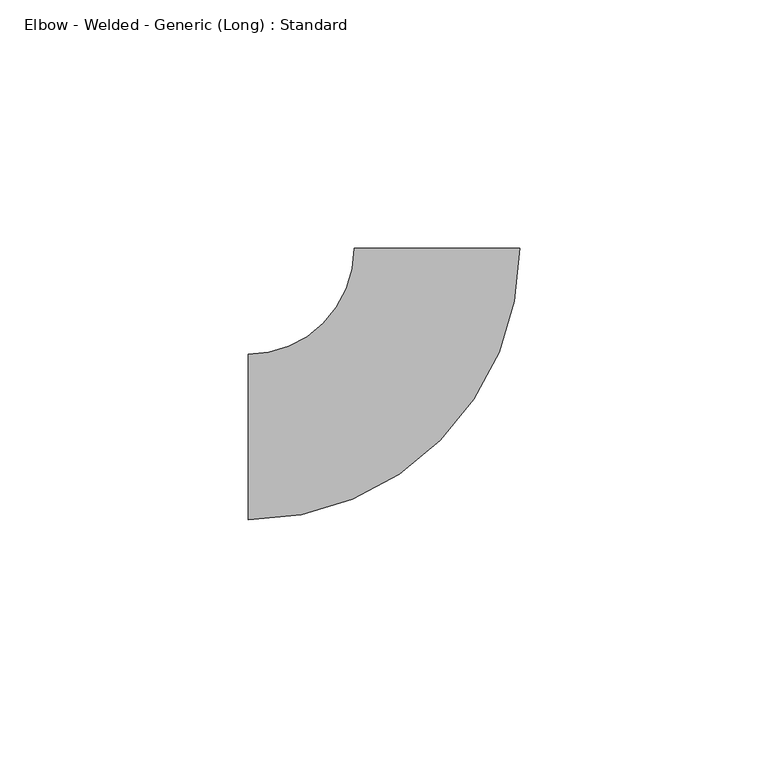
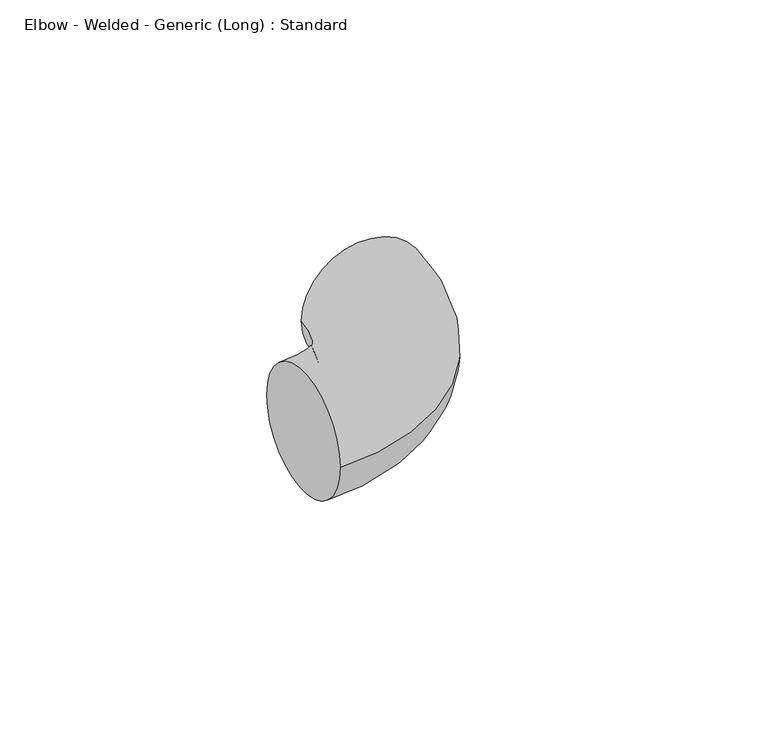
"""IFC4 building model written with IfcOpenShell, lengths in millimetres: pipe fitting geometry, Elbow - Welded - Generic (Long) : Standard."""

import ifcopenshell
import ifcopenshell.guid

model = None  # the IFC model being written
_history = None  # IfcOwnerHistory: only IFC2X3 demands one
_inside = {}  # id of a spatial element -> (the spatial element, [elements in it])
_under = {}  # id of a project, library or spatial element -> (it, [spatial elements below it])
_declared = {}  # id of a project -> (the project, [libraries it declares])
_typed = {}  # id of a type object -> (the type object, [elements of that type])
_made_of = {}  # id of a material, layer set ... -> (it, [elements and type objects made of it])


def new_model(schema):
    """Start an empty IFC model of exactly this schema.

    Asked for "IFC4X3", IfcOpenShell would pick the latest addendum, in which some entities
    have other attributes; the version numbers below select the first issue.
    IFC2X3 requires an IfcOwnerHistory on every rooted entity: one is made here for all.
    """
    global model, _history
    if schema == "IFC4X3":
        model = ifcopenshell.file(schema_version=(4, 3, 0, 0))
    else:
        model = ifcopenshell.file(schema=schema)
    _inside.clear()
    _under.clear()
    _declared.clear()
    _typed.clear()
    _made_of.clear()
    _history = None
    if model.schema == "IFC2X3":
        org = make("IfcOrganization", Name="unknown")
        user = make(
            "IfcPersonAndOrganization",
            ThePerson=make("IfcPerson", FamilyName="unknown"),
            TheOrganization=org,
        )
        app = make(
            "IfcApplication",
            ApplicationDeveloper=org,
            Version="unknown",
            ApplicationFullName="unknown",
            ApplicationIdentifier="unknown",
        )
        _history = make(
            "IfcOwnerHistory",
            OwningUser=user,
            OwningApplication=app,
            ChangeAction="ADDED",
            CreationDate=0,
        )
    return model


def make(cls, **values):
    """One entity of the class cls with the attributes given. An attribute that is None is left unset."""
    return model.create_entity(
        cls, **{name: value for name, value in values.items() if value is not None}
    )


def rooted(cls, **values):
    """An entity with a GlobalId (a new one), such as an element, a storey or a relation."""
    return make(cls, GlobalId=ifcopenshell.guid.new(), OwnerHistory=_history, **values)


def si_unit(unit_type, name, prefix=None):
    """IfcSIUnit, for example si_unit("LENGTHUNIT", "METRE", prefix="MILLI")."""
    return make("IfcSIUnit", UnitType=unit_type, Prefix=prefix, Name=name)


def assignment(units):
    """IfcUnitAssignment: the units of a project."""
    return None if units is None else make("IfcUnitAssignment", Units=units)


def point(xyz):
    """IfcCartesianPoint."""
    return None if xyz is None else make("IfcCartesianPoint", Coordinates=xyz)


def direction(xyz):
    """IfcDirection."""
    return None if xyz is None else make("IfcDirection", DirectionRatios=xyz)


def frame(location, z_axis=None, x_axis=None):
    """IfcAxis2Placement3D, a coordinate frame: its origin and axes. An axis left out is left unset."""
    return make(
        "IfcAxis2Placement3D",
        Location=point(location),
        Axis=direction(z_axis),
        RefDirection=direction(x_axis),
    )


def origin():
    """The frame at (0, 0, 0) with its axes left unset."""
    return frame((0.0, 0.0, 0.0))


def place(relative_to, where):
    """IfcLocalPlacement: puts the frame where relative to a parent placement (None: the world)."""
    return make(
        "IfcLocalPlacement", PlacementRelTo=relative_to, RelativePlacement=where
    )


def context(
    kind, dimensions, precision=None, world=None, true_north=None, identifier=None
):
    """IfcGeometricRepresentationContext, for example the 3D "Model" context."""
    return make(
        "IfcGeometricRepresentationContext",
        ContextIdentifier=identifier,
        ContextType=kind,
        CoordinateSpaceDimension=dimensions,
        Precision=precision,
        WorldCoordinateSystem=world,
        TrueNorth=true_north,
    )


def project(units=None, contexts=None):
    """IfcProject with its units and contexts."""
    return rooted(
        "IfcProject",
        Name="project",
        RepresentationContexts=contexts,
        UnitsInContext=assignment(units),
    )


def spatial(cls, under=None, at=None, **own):
    """A site, building, storey or space (cls), placed at a placement, below another one or the project."""
    s = rooted(cls, ObjectPlacement=at, **own)
    if under is not None:
        _under.setdefault(under.id(), (under, []))[1].append(s)
    return s


def circle_curve(where, radius):
    """IfcCircle in the frame where."""
    return make("IfcCircle", Position=where, Radius=radius)


def ellipse_curve(where, semi_axis1, semi_axis2):
    """IfcEllipse in the frame where."""
    return make(
        "IfcEllipse", Position=where, SemiAxis1=semi_axis1, SemiAxis2=semi_axis2
    )


def trimmed(basis, trim1, trim2, sense, master):
    """IfcTrimmedCurve: the piece of a basis curve between two trims."""
    return make(
        "IfcTrimmedCurve",
        BasisCurve=basis,
        Trim1=trim1,
        Trim2=trim2,
        SenseAgreement=sense,
        MasterRepresentation=master,
    )


def shape(context_of_items, identifier, shape_type, items):
    """IfcShapeRepresentation: the items that make up one representation, for example the "Body"."""
    return make(
        "IfcShapeRepresentation",
        ContextOfItems=context_of_items,
        RepresentationIdentifier=identifier,
        RepresentationType=shape_type,
        Items=items,
    )


def source(mapping_origin, context_of_items, identifier, shape_type, items):
    """IfcRepresentationMap: a shape defined once, which mapped items show again and again."""
    return make(
        "IfcRepresentationMap",
        MappingOrigin=mapping_origin,
        MappedRepresentation=shape(context_of_items, identifier, shape_type, items),
    )


def transform(
    local_origin,
    x_axis=None,
    y_axis=None,
    z_axis=None,
    scale=None,
    scale2=None,
    scale3=None,
    uniform=True,
):
    """IfcCartesianTransformationOperator3D, or its non-uniform kind. x_axis, y_axis, z_axis: its Axis1, 2, 3."""
    if uniform:
        return make(
            "IfcCartesianTransformationOperator3D",
            Axis1=direction(x_axis),
            Axis2=direction(y_axis),
            LocalOrigin=point(local_origin),
            Scale=scale,
            Axis3=direction(z_axis),
        )
    return make(
        "IfcCartesianTransformationOperator3DnonUniform",
        Axis1=direction(x_axis),
        Axis2=direction(y_axis),
        LocalOrigin=point(local_origin),
        Scale=scale,
        Axis3=direction(z_axis),
        Scale2=scale2,
        Scale3=scale3,
    )


def mapped(mapping_source, mapping_target):
    """IfcMappedItem: shows the shape of a source again, moved by a transform."""
    return make(
        "IfcMappedItem", MappingSource=mapping_source, MappingTarget=mapping_target
    )


def made_of(thing, what):
    """Note that an element or type object is made of a material, layer set ...; save() writes the relation."""
    if what is not None:
        _made_of.setdefault(what.id(), (what, []))[1].append(thing)
    return thing


def element(
    cls,
    number,
    at=None,
    inside=None,
    cuts=None,
    type_object=None,
    material=None,
    context=None,
    identifier="Body",
    shape_type=None,
    held_by="IfcProductDefinitionShape",
    body=None,
    shapes=None,
    **own,
):
    """One element of the class cls, such as IfcWall. Its Tag is "e" and its number.

    at: its placement. inside: the storey or other place that contains it. cuts: it is an
    opening in that element (IfcRelVoidsElement). A single representation is given by context,
    identifier, shape_type and body (its items); several are given by shapes. held_by: the class
    of the entity that holds the representations. save() writes the other relations.
    """
    e = rooted(cls, Tag="e%d" % number, ObjectPlacement=at, **own)
    if body is not None:
        shapes = [shape(context, identifier, shape_type, body)]
    if shapes is not None:
        e.Representation = make(held_by, Representations=shapes)
    if inside is not None:
        _inside.setdefault(inside.id(), (inside, []))[1].append(e)
    if cuts is not None:
        rooted(
            "IfcRelVoidsElement", RelatingBuildingElement=cuts, RelatedOpeningElement=e
        )
    if type_object is not None:
        _typed.setdefault(type_object.id(), (type_object, []))[1].append(e)
    return made_of(e, material)


def aggregate(whole, parts):
    """IfcRelAggregates: a whole, such as a stair, and the parts it consists of."""
    return rooted("IfcRelAggregates", RelatingObject=whole, RelatedObjects=parts)


def save(model, path):
    """Write the relations noted so far, then the file.

    IfcRelAggregates (storeys below a building ...), IfcRelContainedInSpatialStructure (elements
    in a storey), IfcRelDefinesByType, IfcRelAssociatesMaterial and IfcRelDeclares: one each for
    every whole, place, type object, material and project.
    """
    for whole, parts in _under.values():
        aggregate(whole, parts)
    for where, things in _inside.values():
        rooted(
            "IfcRelContainedInSpatialStructure",
            RelatedElements=things,
            RelatingStructure=where,
        )
    for kind, things in _typed.values():
        rooted("IfcRelDefinesByType", RelatedObjects=things, RelatingType=kind)
    for what, things in _made_of.values():
        rooted("IfcRelAssociatesMaterial", RelatedObjects=things, RelatingMaterial=what)
    for by, libraries in _declared.values():
        rooted("IfcRelDeclares", RelatingContext=by, RelatedDefinitions=libraries)
    model.write(path)


def plane_surface(at):
    """IfcPlane: the flat surface through the origin of the frame at, square to its z axis."""
    return make("IfcPlane", Position=at)


def revolved_surface(curve, axis_point, axis_direction):
    """IfcSurfaceOfRevolution: the curve turned about the line through axis_point along axis_direction."""
    return make(
        "IfcSurfaceOfRevolution",
        SweptCurve=make("IfcArbitraryOpenProfileDef", ProfileType="CURVE", Curve=curve),
        AxisPosition=make("IfcAxis1Placement", Location=point(axis_point), Axis=direction(axis_direction)),
    )


def advanced_brep(points, edges, surfaces, faces):
    """IfcAdvancedBrep: a solid bounded by faces that lie on surfaces and meet in shared edges.

    An edge is (start, end): straight between two places in points (the first is 0);
    or (start, end, curve); or (start, end, curve, False) where it runs against its curve.
    A face is (place in surfaces, loops), or (place, loops, False) where it looks against
    its surface's normal. A loop lists edges by number (the first is 1), with a minus sign
    where the edge is run from its end to its start. The first loop is the outer one.
    """
    corners = [point(p) for p in points]
    vertices = [make("IfcVertexPoint", VertexGeometry=c) for c in corners]
    made = []
    for start, end, *more in edges:
        made.append(
            make(
                "IfcEdgeCurve",
                EdgeStart=vertices[start],
                EdgeEnd=vertices[end],
                EdgeGeometry=more[0] if more else make("IfcPolyline", Points=[corners[start], corners[end]]),
                SameSense=more[1] if len(more) > 1 else True,
            )
        )
    hull = []
    for where, loops, *sense in faces:
        bounds = []
        for j, loop in enumerate(loops):
            ring = [make("IfcOrientedEdge", EdgeElement=made[abs(k) - 1], Orientation=k > 0) for k in loop]
            bounds.append(
                make(
                    "IfcFaceOuterBound" if j == 0 else "IfcFaceBound",
                    Bound=make("IfcEdgeLoop", EdgeList=ring),
                    Orientation=True,
                )
            )
        hull.append(make("IfcAdvancedFace", Bounds=bounds, FaceSurface=surfaces[where], SameSense=sense[0] if sense else True))
    return make("IfcAdvancedBrep", Outer=make("IfcClosedShell", CfsFaces=hull))


def elbow_welded_generic_long_standard_46377d29(model_context):
    return source(origin(), model_context, "Body", "AdvancedBrep", [
        advanced_brep(
        [(-38.1, -16.66875, 0.0), (-38.1, 16.66875, 0.0), (16.6387751, 38.1131, 0.0), (-16.6987146, 38.0868765, 0.0)],
        [
            (0, 1, circle_curve(frame((-38.1, 0.0, 0.0), z_axis=(-1.0, 0.0, 0.0), x_axis=(0.0, 1.0, 0.0)), 16.66875)),
            (1, 0, circle_curve(frame((-38.1, 0.0, 0.0), z_axis=(-1.0, 0.0, 0.0), x_axis=(0.0, 1.0, 0.0)), 16.66875)),
            (2, 3, circle_curve(frame((-0.0299697, 38.0999882, 0.0), z_axis=(-0.0007866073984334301, 0.9999996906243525, 0.0), x_axis=(-0.9999996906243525, -0.0007866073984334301, 0.0)), 16.66875)),
            (3, 2, circle_curve(frame((-0.0299697, 38.0999882, 0.0), z_axis=(-0.0007866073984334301, 0.9999996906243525, 0.0), x_axis=(-0.9999996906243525, -0.0007866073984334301, 0.0)), 16.66875)),
            (3, 1, circle_curve(frame((-38.1, 38.070042, 0.0), z_axis=(0.0, 0.0, -1.0), x_axis=(0.0, -1.0, 0.0)), 21.401292)),
            (0, 2, circle_curve(frame((-38.1, 38.070042, 0.0), z_axis=(0.0, 0.0, 1.0), x_axis=(0.0, -1.0, 0.0)), 54.738792)),
        ],
        [
            plane_surface(frame((-38.1, 0.0, 0.0), z_axis=(-1.0, 0.0, 0.0), x_axis=(0.0, 0.0, 1.0))),
            plane_surface(frame((-0.0299697, 38.0999882, 0.0), z_axis=(-0.0007866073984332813, 0.9999996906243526, 0.0), x_axis=(0.0, 0.0, 1.0))),
            revolved_surface(trimmed(ellipse_curve(frame((-38.1, 0.0, 0.0), z_axis=(-1.0, 0.0, 0.0), x_axis=(0.0, 1.0, 0.0)), 16.66875, 16.66875), [point((-38.1, -16.66875, 0.0))], [point((-38.1, 16.66875, 0.0))], True, "CARTESIAN"), (-38.1, 38.070042, 0.0), (0.0, 0.0, 1.0)),
            revolved_surface(trimmed(ellipse_curve(frame((-38.1, 0.0, 0.0), z_axis=(-1.0, 0.0, 0.0), x_axis=(0.0, 1.0, 0.0)), 16.66875, 16.66875), [point((-38.1, 16.66875, 0.0))], [point((-38.1, -16.66875, 0.0))], True, "CARTESIAN"), (-38.1, 38.070042, 0.0), (0.0, 0.0, 1.0)),
        ],
        [
            (0, [[1, 2]]),
            (1, [[3, 4]]),
            (2, [[5, -1, 6, -4]]),
            (3, [[-6, -2, -5, -3]]),
        ],
    ),
    ])


if __name__ == "__main__":
    model = new_model("IFC4")
    model_context = context("Model", 3, world=origin())
    ifc_project = project(units=[si_unit("LENGTHUNIT", "METRE", prefix="MILLI")], contexts=[model_context])
    site = spatial("IfcSite", under=ifc_project)
    building = spatial("IfcBuilding", under=site)
    placement = place(None, origin())
    elbow_welded_generic_long_standard_shape = elbow_welded_generic_long_standard_46377d29(model_context)
    element("IfcPipeFitting", 1, ObjectType="Elbow - Welded - Generic (Long) : Standard", at=placement, inside=building, context=model_context, shape_type="MappedRepresentation", body=[
        mapped(elbow_welded_generic_long_standard_shape, transform((0.0, 0.0, 0.0), x_axis=(1.0, 0.0, 0.0), y_axis=(0.0, 1.0, 0.0), z_axis=(0.0, 0.0, 1.0))),
    ])
    save(model, "model.ifc")
